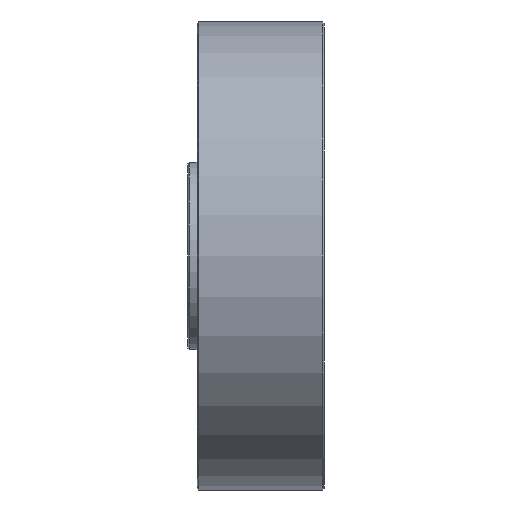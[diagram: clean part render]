
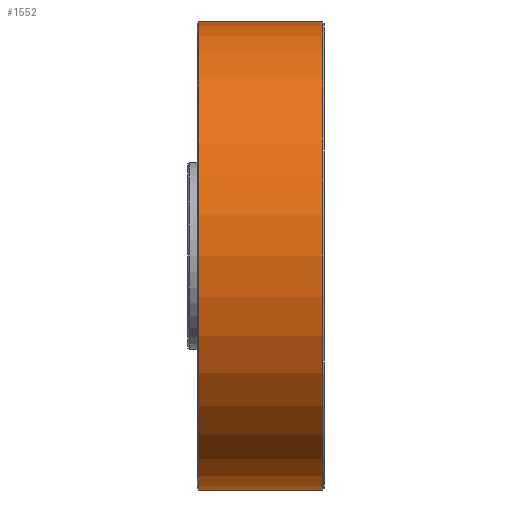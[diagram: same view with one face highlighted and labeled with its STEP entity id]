
A CAD part, left-side view. The second image highlights one B-rep face of the part: STEP entity #1552.
In plain terms, the highlighted cylindrical face has radius 76.2 mm (diameter 152.4 mm), a partial arc.
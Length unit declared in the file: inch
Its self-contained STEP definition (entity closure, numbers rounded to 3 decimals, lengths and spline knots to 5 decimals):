
#35 = DIRECTION ( 'NONE',  ( 0., 0., -1. ) ) ;
#70 = CARTESIAN_POINT ( 'NONE',  ( 0., 1.61, 3. ) ) ;
#85 = CARTESIAN_POINT ( 'NONE',  ( 0., 0.02, -3. ) ) ;
#99 = EDGE_CURVE ( 'NONE', #912, #657, #376, .T. ) ;
#110 = AXIS2_PLACEMENT_3D ( 'NONE', #804, #708, #458 ) ;
#120 = CARTESIAN_POINT ( 'NONE',  ( 0., 1.63, 3. ) ) ;
#190 = AXIS2_PLACEMENT_3D ( 'NONE', #1234, #884, #35 ) ;
#291 = ORIENTED_EDGE ( 'NONE', *, *, #1160, .T. ) ;
#293 = ORIENTED_EDGE ( 'NONE', *, *, #99, .F. ) ;
#353 = DIRECTION ( 'NONE',  ( 0., -1., 0. ) ) ;
#368 = AXIS2_PLACEMENT_3D ( 'NONE', #868, #1361, #649 ) ;
#376 = LINE ( 'NONE', #120, #886 ) ;
#390 = DIRECTION ( 'NONE',  ( 0., -1., 0. ) ) ;
#405 = CARTESIAN_POINT ( 'NONE',  ( 0., 1.63, -3. ) ) ;
#443 = EDGE_CURVE ( 'NONE', #912, #756, #1422, .T. ) ;
#458 = DIRECTION ( 'NONE',  ( 0., 0., 1. ) ) ;
#520 = VECTOR ( 'NONE', #390, 39.37008 ) ;
#649 = DIRECTION ( 'NONE',  ( 0., 0., 1. ) ) ;
#657 = VERTEX_POINT ( 'NONE', #1108 ) ;
#708 = DIRECTION ( 'NONE',  ( 0., -1., 0. ) ) ;
#753 = FACE_OUTER_BOUND ( 'NONE', #1287, .T. ) ;
#756 = VERTEX_POINT ( 'NONE', #1378 ) ;
#804 = CARTESIAN_POINT ( 'NONE',  ( 0., 1.61, 0. ) ) ;
#868 = CARTESIAN_POINT ( 'NONE',  ( 0., 0.02, 0. ) ) ;
#877 = VERTEX_POINT ( 'NONE', #85 ) ;
#884 = DIRECTION ( 'NONE',  ( 0., -1., 0. ) ) ;
#886 = VECTOR ( 'NONE', #353, 39.37008 ) ;
#912 = VERTEX_POINT ( 'NONE', #70 ) ;
#1037 = ORIENTED_EDGE ( 'NONE', *, *, #443, .T. ) ;
#1108 = CARTESIAN_POINT ( 'NONE',  ( 0., 0.02, 3. ) ) ;
#1159 = EDGE_CURVE ( 'NONE', #756, #877, #1485, .T. ) ;
#1160 = EDGE_CURVE ( 'NONE', #877, #657, #1299, .T. ) ;
#1234 = CARTESIAN_POINT ( 'NONE',  ( 0., 1.63, 0. ) ) ;
#1287 = EDGE_LOOP ( 'NONE', ( #293, #1037, #1379, #291 ) ) ;
#1299 = CIRCLE ( 'NONE', #368, 3. ) ;
#1361 = DIRECTION ( 'NONE',  ( 0., 1., 0. ) ) ;
#1378 = CARTESIAN_POINT ( 'NONE',  ( 0., 1.61, -3. ) ) ;
#1379 = ORIENTED_EDGE ( 'NONE', *, *, #1159, .T. ) ;
#1422 = CIRCLE ( 'NONE', #110, 3. ) ;
#1485 = LINE ( 'NONE', #405, #520 ) ;
#1497 = CYLINDRICAL_SURFACE ( 'NONE', #190, 3. ) ;
#1552 = ADVANCED_FACE ( 'NONE', ( #753 ), #1497, .T. ) ;
